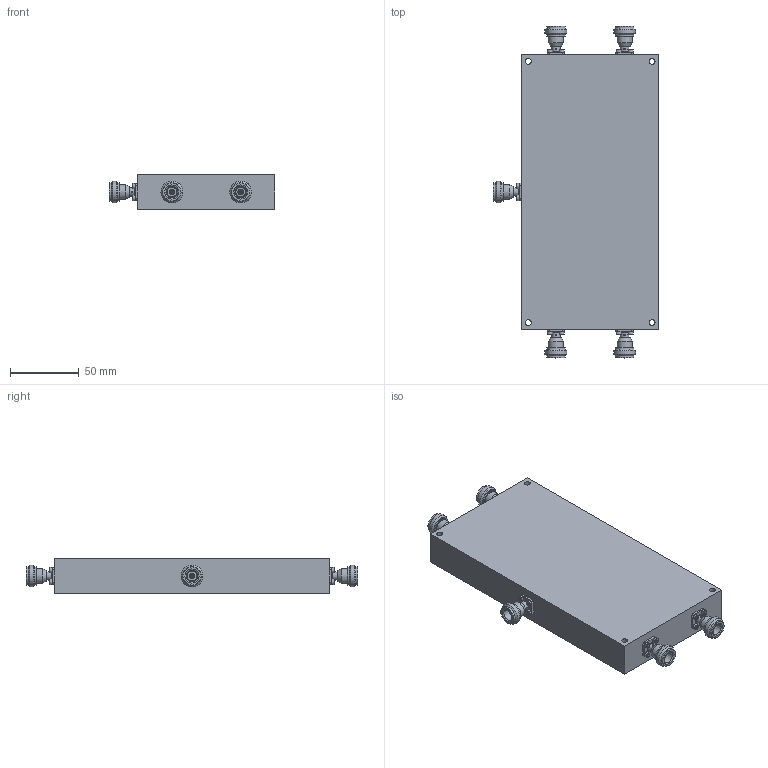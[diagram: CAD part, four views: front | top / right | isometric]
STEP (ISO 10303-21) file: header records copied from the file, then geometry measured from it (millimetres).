
FILE_DESCRIPTION(/* description */ ('Unknown'),/* implementation_level */ '2;1');
FILE_NAME(/* name */ 'DETI_MICROWAVE_NARROW_BAND_COMBINER_011131_STEP',/* time_stamp */ '2021-06-14T15:19:35+02:00',/* author */ ('ALG'),/* organization */ ('DETI'),/* preprocessor_version */ 'ST-DEVELOPER v16.7',/* originating_system */ 'Solid Edge',/* authorisation */ 'Unknown');
FILE_SCHEMA (('AUTOMOTIVE_DESIGN {1 0 10303 214 3 1 1}'));
Length unit declared in the file: millimetre
Products named in the file (1): CO-4-4400-5000-200-NF-NF2
Bounding box: 120.7 x 241.4 x 25 mm (x, y, z)
Volume: 501886.4 mm3; surface area: 69775.3 mm2
Topology: 1 solids, 24 shells, 703 faces, 1659 edges, 1068 vertices
Faces by surface type: plane 346, cone 160, cylinder 157, torus 40
Full cylindrical faces by diameter (mm): 1 x10, 1.275 x5, 2 x20, 2.1 x5, 2.9 x20, 3.03 x5, 3.8 x20, 4.06 x5, 4.1 x3, 4.2 x4, 6.3 x5, 7 x5, 10.9 x5, 13.5 x10, 15.84 x5
Entity records: 23476 total; most frequent: CARTESIAN_POINT 4057, DIRECTION 2948, ORIENTED_EDGE 2632, EDGE_CURVE 1316, AXIS2_PLACEMENT_3D 1258, FACE_BOUND 1069, EDGE_LOOP 1044, VERTEX_POINT 977
